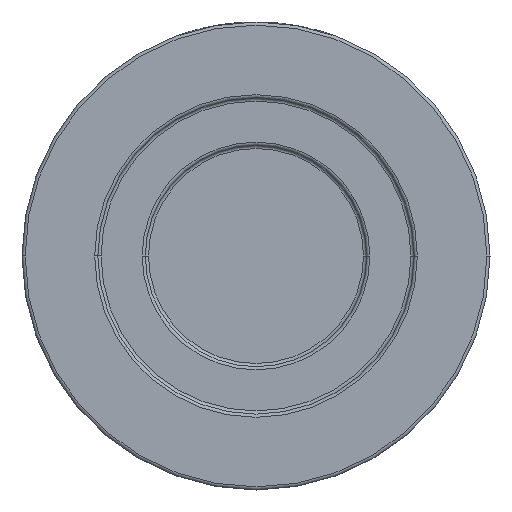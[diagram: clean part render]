
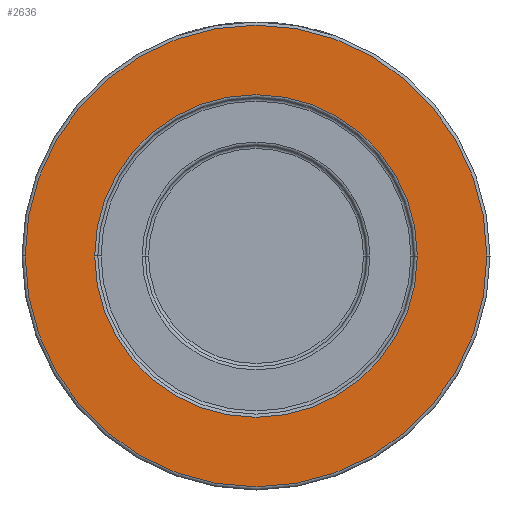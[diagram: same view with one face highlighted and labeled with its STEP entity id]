
A CAD part, front view. The second image highlights one B-rep face of the part: STEP entity #2636.
In plain terms, the highlighted planar face has unit normal (0, -1, 0).
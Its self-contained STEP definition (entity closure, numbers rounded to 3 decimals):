
#56 = ORIENTED_EDGE ( 'NONE', *, *, #4816, .T. ) ;
#171 = DIRECTION ( 'NONE',  ( 0., -1., 0. ) ) ;
#353 = AXIS2_PLACEMENT_3D ( 'NONE', #1802, #3340, #4793 ) ;
#434 = PLANE ( 'NONE',  #882 ) ;
#507 = AXIS2_PLACEMENT_3D ( 'NONE', #4620, #171, #532 ) ;
#531 = CARTESIAN_POINT ( 'NONE',  ( -51., -50., 0. ) ) ;
#532 = DIRECTION ( 'NONE',  ( 1., 0., 0. ) ) ;
#882 = AXIS2_PLACEMENT_3D ( 'NONE', #4453, #4502, #2616 ) ;
#1361 = CARTESIAN_POINT ( 'NONE',  ( 0., -50., 0. ) ) ;
#1511 = FACE_OUTER_BOUND ( 'NONE', #2791, .T. ) ;
#1736 = EDGE_LOOP ( 'NONE', ( #4267, #3119 ) ) ;
#1802 = CARTESIAN_POINT ( 'NONE',  ( 0., -50., 0. ) ) ;
#1851 = FACE_BOUND ( 'NONE', #1736, .T. ) ;
#1895 = VERTEX_POINT ( 'NONE', #2268 ) ;
#2028 = VERTEX_POINT ( 'NONE', #531 ) ;
#2032 = CARTESIAN_POINT ( 'NONE',  ( 51., -50., 0. ) ) ;
#2268 = CARTESIAN_POINT ( 'NONE',  ( -73., -50., 0. ) ) ;
#2378 = CIRCLE ( 'NONE', #4643, 51. ) ;
#2616 = DIRECTION ( 'NONE',  ( 1., 0., 0. ) ) ;
#2636 = ADVANCED_FACE ( 'NONE', ( #1851, #1511 ), #434, .T. ) ;
#2791 = EDGE_LOOP ( 'NONE', ( #3760, #56 ) ) ;
#2816 = DIRECTION ( 'NONE',  ( 1., 0., 0. ) ) ;
#2853 = CIRCLE ( 'NONE', #4101, 51. ) ;
#2996 = CARTESIAN_POINT ( 'NONE',  ( 0., -50., 0. ) ) ;
#3103 = VERTEX_POINT ( 'NONE', #2032 ) ;
#3119 = ORIENTED_EDGE ( 'NONE', *, *, #3472, .T. ) ;
#3340 = DIRECTION ( 'NONE',  ( 0., -1., 0. ) ) ;
#3399 = EDGE_CURVE ( 'NONE', #3103, #2028, #2853, .T. ) ;
#3472 = EDGE_CURVE ( 'NONE', #2028, #3103, #2378, .T. ) ;
#3643 = CARTESIAN_POINT ( 'NONE',  ( 73., -50., 0. ) ) ;
#3654 = DIRECTION ( 'NONE',  ( 1., 0., 0. ) ) ;
#3760 = ORIENTED_EDGE ( 'NONE', *, *, #4696, .T. ) ;
#3792 = VERTEX_POINT ( 'NONE', #3643 ) ;
#4101 = AXIS2_PLACEMENT_3D ( 'NONE', #2996, #4482, #3654 ) ;
#4267 = ORIENTED_EDGE ( 'NONE', *, *, #3399, .T. ) ;
#4353 = DIRECTION ( 'NONE',  ( 0., 1., 0. ) ) ;
#4453 = CARTESIAN_POINT ( 'NONE',  ( 74., -50., 0. ) ) ;
#4482 = DIRECTION ( 'NONE',  ( 0., 1., 0. ) ) ;
#4498 = CIRCLE ( 'NONE', #353, 73. ) ;
#4502 = DIRECTION ( 'NONE',  ( 0., -1., 0. ) ) ;
#4620 = CARTESIAN_POINT ( 'NONE',  ( 0., -50., 0. ) ) ;
#4643 = AXIS2_PLACEMENT_3D ( 'NONE', #1361, #4353, #2816 ) ;
#4696 = EDGE_CURVE ( 'NONE', #3792, #1895, #4728, .T. ) ;
#4728 = CIRCLE ( 'NONE', #507, 73. ) ;
#4793 = DIRECTION ( 'NONE',  ( 1., 0., 0. ) ) ;
#4816 = EDGE_CURVE ( 'NONE', #1895, #3792, #4498, .T. ) ;
